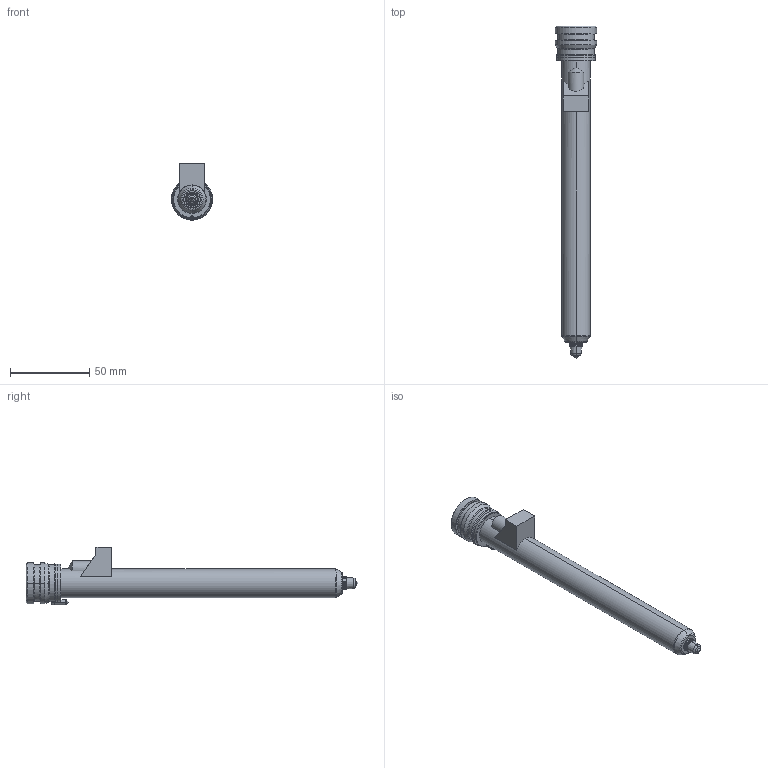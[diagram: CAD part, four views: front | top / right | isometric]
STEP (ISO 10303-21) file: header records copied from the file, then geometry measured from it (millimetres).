
FILE_DESCRIPTION((''),'2;1');
FILE_NAME('TH18191-M-1B50-PK-JG','2023-12-14T',('umhib'),('Thermoplay S.p.A.'),'PRO/ENGINEER BY PARAMETRIC TECHNOLOGY CORPORATION, 2017170','PRO/ENGINEER BY PARAMETRIC TECHNOLOGY CORPORATION, 2017170','');
FILE_SCHEMA(('CONFIG_CONTROL_DESIGN'));
Length unit declared in the file: millimetre
Products named in the file (1): TH18191-M-1B50-PK-JG
Bounding box: 26 x 209 x 36.1 mm (x, y, z)
Volume: 40570.7 mm3; surface area: 30570.7 mm2
Topology: 1 solids, 2 shells, 389 faces, 993 edges, 609 vertices
Faces by surface type: cylinder 149, plane 87, cone 62, torus 56, bspline 22, sphere 11, extrusion 2
Entity records: 16881 total; most frequent: CARTESIAN_POINT 5238, DIRECTION 1992, ORIENTED_EDGE 1960, EDGE_CURVE 982, AXIS2_PLACEMENT_3D 802, VERTEX_POINT 609, CIRCLE 436, EDGE_LOOP 412
